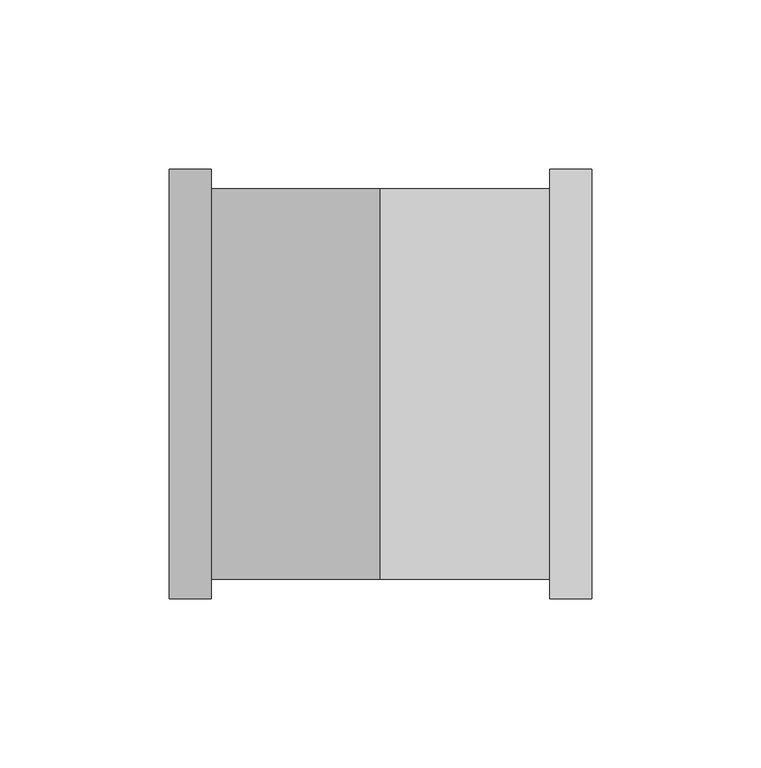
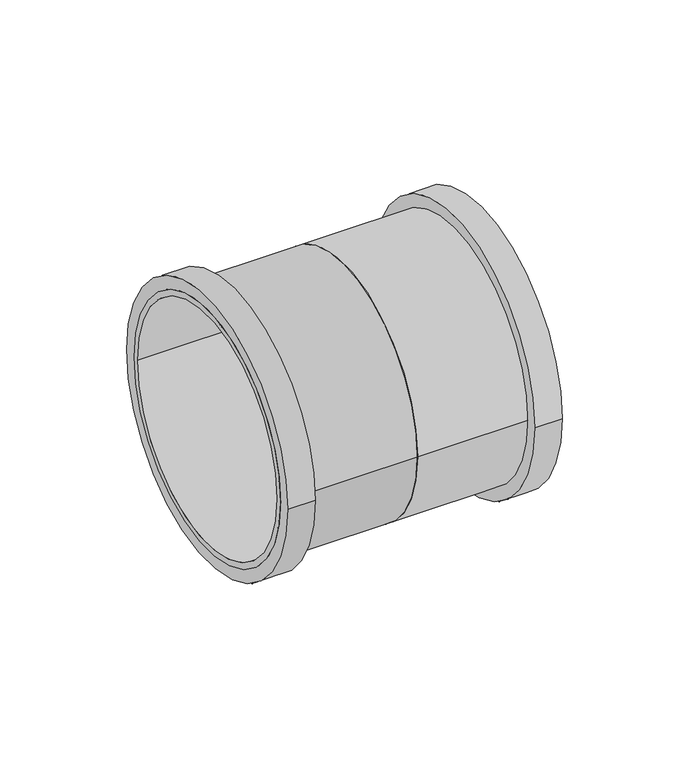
"""IFC4 building model written with IfcOpenShell, lengths in millimetres: pipe fitting geometry, Superdrain SKU-coupler : Superdrain SKU-coupler."""

from ifc_helpers import new_model, si_unit, point, frame, origin, origin_2d, place, context, project, spatial, circle_curve, trimmed, segment, composite_curve, outline, extrude, source, transform, mapped, element, save


def pipe_fitting_8f561408(model_context):
    return source(origin(), model_context, "Body", "SweptSolid", [
        extrude(outline(composite_curve([segment(trimmed(circle_curve(origin_2d(), 57.75), [point((57.75, 0.0))], [point((-57.75, 0.0))], False, "CARTESIAN"), True, "CONTINUOUS"), segment(trimmed(circle_curve(origin_2d(), 57.75), [point((-57.75, 0.0))], [point((57.75, 0.0))], False, "CARTESIAN"), True, "CONTINUOUS")], self_intersect=False), holes=[composite_curve([segment(trimmed(circle_curve(origin_2d(), 55.0), [point((55.0, 0.0))], [point((-55.0, 0.0))], True, "CARTESIAN"), True, "CONTINUOUS"), segment(trimmed(circle_curve(origin_2d(), 55.0), [point((-55.0, 0.0))], [point((55.0, 0.0))], True, "CARTESIAN"), True, "CONTINUOUS")], self_intersect=False)]), frame((0.0, 0.0, 0.0), z_axis=(1.0, 0.0, 0.0), x_axis=(0.0, 1.0, 0.0)), (0.0, 0.0, 1.0), 62.5),
        extrude(outline(composite_curve([segment(trimmed(circle_curve(origin_2d(), 63.525), [point((63.525, 0.0))], [point((-63.525, 0.0))], False, "CARTESIAN"), True, "CONTINUOUS"), segment(trimmed(circle_curve(origin_2d(), 63.525), [point((-63.525, 0.0))], [point((63.525, 0.0))], False, "CARTESIAN"), True, "CONTINUOUS")], self_intersect=False), holes=[composite_curve([segment(trimmed(circle_curve(origin_2d(), 55.0), [point((55.0, 0.0))], [point((-55.0, 0.0))], True, "CARTESIAN"), True, "CONTINUOUS"), segment(trimmed(circle_curve(origin_2d(), 55.0), [point((-55.0, 0.0))], [point((55.0, 0.0))], True, "CARTESIAN"), True, "CONTINUOUS")], self_intersect=False)]), frame((50.0, 0.0, 0.0), z_axis=(1.0, 0.0, 0.0), x_axis=(0.0, 1.0, 0.0)), (0.0, 0.0, 1.0), 12.5),
        extrude(outline(composite_curve([segment(trimmed(circle_curve(origin_2d(), 57.75), [point((-57.75, 0.0))], [point((57.75, 0.0))], False, "CARTESIAN"), True, "CONTINUOUS"), segment(trimmed(circle_curve(origin_2d(), 57.75), [point((57.75, 0.0))], [point((-57.75, 0.0))], False, "CARTESIAN"), True, "CONTINUOUS")], self_intersect=False), holes=[composite_curve([segment(trimmed(circle_curve(origin_2d(), 55.0), [point((-55.0, 0.0))], [point((55.0, 0.0))], True, "CARTESIAN"), True, "CONTINUOUS"), segment(trimmed(circle_curve(origin_2d(), 55.0), [point((55.0, 0.0))], [point((-55.0, 0.0))], True, "CARTESIAN"), True, "CONTINUOUS")], self_intersect=False)]), frame((-62.5, 0.0, 0.0), z_axis=(1.0, 0.0, 0.0), x_axis=(0.0, 1.0, 0.0)), (0.0, 0.0, 1.0), 62.5),
        extrude(outline(composite_curve([segment(trimmed(circle_curve(origin_2d(), 63.525), [point((-63.525, 0.0))], [point((63.525, 0.0))], False, "CARTESIAN"), True, "CONTINUOUS"), segment(trimmed(circle_curve(origin_2d(), 63.525), [point((63.525, 0.0))], [point((-63.525, 0.0))], False, "CARTESIAN"), True, "CONTINUOUS")], self_intersect=False), holes=[composite_curve([segment(trimmed(circle_curve(origin_2d(), 55.0), [point((-55.0, 0.0))], [point((55.0, 0.0))], True, "CARTESIAN"), True, "CONTINUOUS"), segment(trimmed(circle_curve(origin_2d(), 55.0), [point((55.0, 0.0))], [point((-55.0, 0.0))], True, "CARTESIAN"), True, "CONTINUOUS")], self_intersect=False)]), frame((-62.5, 0.0, 0.0), z_axis=(1.0, 0.0, 0.0), x_axis=(0.0, 1.0, 0.0)), (0.0, 0.0, 1.0), 12.5),
    ])


if __name__ == "__main__":
    model = new_model("IFC4")
    model_context = context("Model", 3, world=origin())
    ifc_project = project(units=[si_unit("LENGTHUNIT", "METRE", prefix="MILLI")], contexts=[model_context])
    site = spatial("IfcSite", under=ifc_project)
    building = spatial("IfcBuilding", under=site)
    placement = place(None, origin())
    pipe_fitting_shape = pipe_fitting_8f561408(model_context)
    element("IfcPipeFitting", 1, ObjectType="Superdrain SKU-coupler : Superdrain SKU-coupler", at=placement, inside=building, context=model_context, shape_type="MappedRepresentation", body=[
        mapped(pipe_fitting_shape, transform((0.0, 0.0, 0.0), x_axis=(1.0, 0.0, 0.0), y_axis=(0.0, 1.0, 0.0), z_axis=(0.0, 0.0, 1.0))),
    ])
    save(model, "model.ifc")
